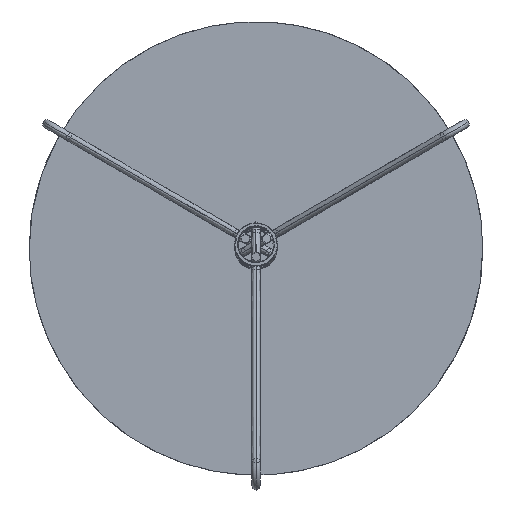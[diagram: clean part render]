
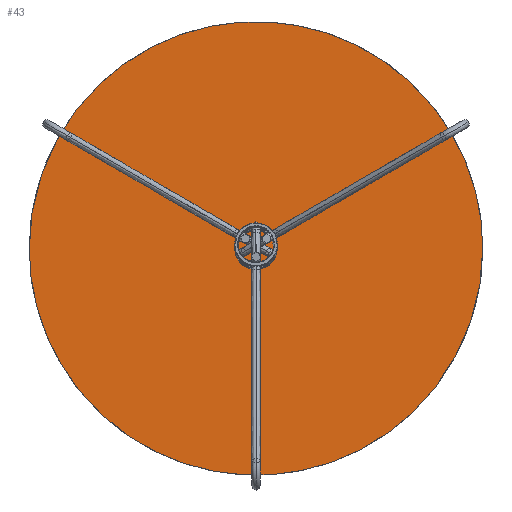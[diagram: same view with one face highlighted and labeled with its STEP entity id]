
A CAD part, top view. The second image highlights one B-rep face of the part: STEP entity #43.
In plain terms, the highlighted planar face has unit normal (0, 0, 1).
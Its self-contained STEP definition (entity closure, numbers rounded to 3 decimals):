
#43=ADVANCED_FACE($,(#167),#1400,.T.);
#167=FACE_OUTER_BOUND($,#291,.T.);
#291=EDGE_LOOP($,(#438,#439));
#438=ORIENTED_EDGE($,*,*,#978,.F.);
#439=ORIENTED_EDGE($,*,*,#974,.F.);
#974=EDGE_CURVE($,#1244,#1246,#1588,.T.);
#978=EDGE_CURVE($,#1246,#1244,#1590,.T.);
#1244=VERTEX_POINT($,#1978);
#1246=VERTEX_POINT($,#1980);
#1400=PLANE($,#1882);
#1588=(
BOUNDED_CURVE()
B_SPLINE_CURVE(2,(#1932,#1933,#1934,#1935,#1936),.UNSPECIFIED.,.F.,.F.)
B_SPLINE_CURVE_WITH_KNOTS((3,2,3),(0.,251.327,502.655),
.UNSPECIFIED.)
CURVE()
GEOMETRIC_REPRESENTATION_ITEM()
RATIONAL_B_SPLINE_CURVE((1.,0.707,1.,0.707,1.))
REPRESENTATION_ITEM($)
);
#1590=(
BOUNDED_CURVE()
B_SPLINE_CURVE(2,(#1946,#1947,#1948,#1949,#1950),.UNSPECIFIED.,.F.,.F.)
B_SPLINE_CURVE_WITH_KNOTS((3,2,3),(502.655,753.982,1005.31),
.UNSPECIFIED.)
CURVE()
GEOMETRIC_REPRESENTATION_ITEM()
RATIONAL_B_SPLINE_CURVE((1.,0.707,1.,0.707,1.))
REPRESENTATION_ITEM($)
);
#1882=AXIS2_PLACEMENT_3D($,#1966,#1907,$);
#1907=DIRECTION($,(0.,0.,1.));
#1932=CARTESIAN_POINT($,(160.,0.02,-0.078));
#1933=CARTESIAN_POINT($,(160.,-159.98,-0.078));
#1934=CARTESIAN_POINT($,(0.,-159.98,-0.078));
#1935=CARTESIAN_POINT($,(-160.,-159.98,-0.078));
#1936=CARTESIAN_POINT($,(-160.,0.02,-0.078));
#1946=CARTESIAN_POINT($,(-160.,0.02,-0.078));
#1947=CARTESIAN_POINT($,(-160.,160.02,-0.078));
#1948=CARTESIAN_POINT($,(0.,160.02,-0.078));
#1949=CARTESIAN_POINT($,(160.,160.02,-0.078));
#1950=CARTESIAN_POINT($,(160.,0.02,-0.078));
#1966=CARTESIAN_POINT($,(-160.,-159.98,-0.078));
#1978=CARTESIAN_POINT($,(160.,0.02,-0.078));
#1980=CARTESIAN_POINT($,(-160.,0.02,-0.078));
